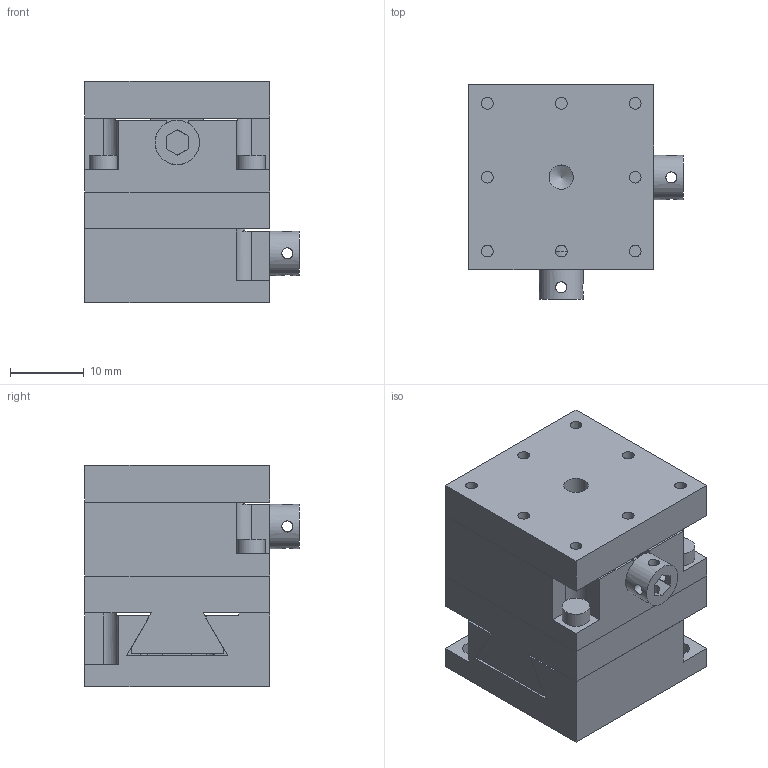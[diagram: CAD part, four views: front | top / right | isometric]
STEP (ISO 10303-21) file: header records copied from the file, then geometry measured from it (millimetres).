
FILE_DESCRIPTION( ( 'STEP AP203' ), '1' );
FILE_NAME( 'C:/3D-Trans/3D_BDBYS-25+080811.step', '2008-08-11T01:31:26', ( ' ' ), ( ' ' ), 'XStep 1.0', ' ', ' ' );
FILE_SCHEMA( ( 'CONFIG_CONTROL_DESIGN' ) );
Length unit declared in the file: millimetre
Products named in the file (6): 1; 2; 3; 4; 5; 6
Bounding box: 29 x 29 x 30 mm (x, y, z)
Volume: 16129.6 mm3; surface area: 11288.8 mm2
Topology: 6 solids, 6 shells, 215 faces, 582 edges, 388 vertices
Faces by surface type: plane 139, cylinder 72, cone 4
Full cylindrical faces by diameter (mm): 1.5 x8, 1.6 x16, 2 x2, 2.5 x7, 3 x2, 3.3 x4, 3.8 x3, 6 x4
Entity records: 7022 total; most frequent: CARTESIAN_POINT 1399, DIRECTION 1098, ORIENTED_EDGE 1028, EDGE_CURVE 514, VERTEX_POINT 374, AXIS2_PLACEMENT_3D 373, LINE 352, VECTOR 352
